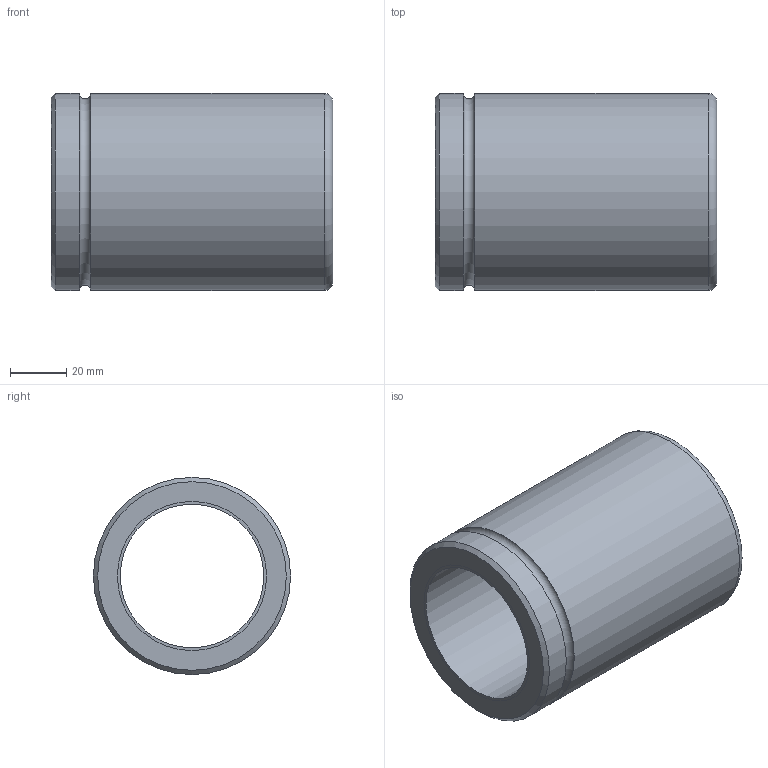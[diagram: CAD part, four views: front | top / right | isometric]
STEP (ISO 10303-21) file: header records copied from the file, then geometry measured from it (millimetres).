
FILE_DESCRIPTION(/* description */ ('Impex Ready, www.impex-ready.pl'),/* implementation_level */ '2;1');
FILE_NAME(/* name */ 'C:\Users\VIKKY\Nextcloud\SM\projekt 10 - części na stronę internetową\Pliki_3D_new\290 Tuleje B4B\290 B4B_STEP\B4B51100.ipt.step',/* time_stamp */ '2022-01-19T07:07:26+01:00',/* author */ ('SM'),/* organization */ (''),/* preprocessor_version */ 'ST-DEVELOPER v18.1',/* originating_system */ 'Autodesk Inventor 2021',/* authorisation */ '');
FILE_SCHEMA (('AUTOMOTIVE_DESIGN { 1 0 10303 214 3 1 1 }'));
Length unit declared in the file: millimetre
Products named in the file (1): B4B51100
Bounding box: 100 x 70 x 70 mm (x, y, z)
Volume: 178472.7 mm3; surface area: 74793.2 mm2
Topology: 2 solids, 2 shells, 12 faces, 25 edges, 16 vertices
Faces by surface type: cylinder 5, torus 3, plane 3, cone 1
Full cylindrical faces by diameter (mm): 51 x1, 53 x2, 70 x2
Entity records: 427 total; most frequent: DIRECTION 70, CARTESIAN_POINT 54, ORIENTED_EDGE 50, AXIS2_PLACEMENT_3D 32, EDGE_CURVE 25, CIRCLE 19, VERTEX_POINT 16, EDGE_LOOP 15
